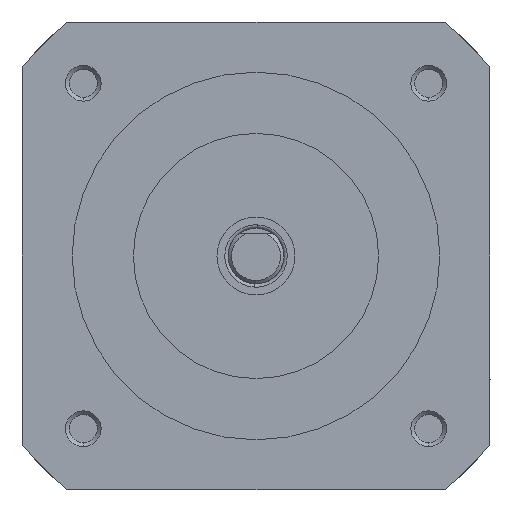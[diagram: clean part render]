
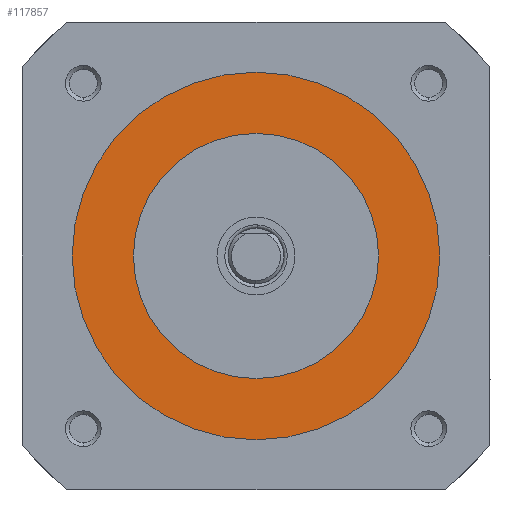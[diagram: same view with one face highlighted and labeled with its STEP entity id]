
A CAD part, left-side view. The second image highlights one B-rep face of the part: STEP entity #117857.
In plain terms, the highlighted planar face has unit normal (-1, 0, 0).
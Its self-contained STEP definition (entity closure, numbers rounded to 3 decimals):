
#2544 = ORIENTED_EDGE ( 'NONE', *, *, #118529, .F. ) ;
#20765 = VERTEX_POINT ( 'NONE', #42712 ) ;
#22672 = EDGE_CURVE ( 'NONE', #160364, #20765, #188858, .T. ) ;
#24115 = PLANE ( 'NONE',  #160696 ) ;
#37977 = CIRCLE ( 'NONE', #86567, 11. ) ;
#38978 = CARTESIAN_POINT ( 'NONE',  ( -25.026, 10.32, 63.49 ) ) ;
#42712 = CARTESIAN_POINT ( 'NONE',  ( -25.026, 10.32, 52.49 ) ) ;
#48685 = CARTESIAN_POINT ( 'NONE',  ( -25.026, 10.32, 74.49 ) ) ;
#69312 = CIRCLE ( 'NONE', #199635, 16.5 ) ;
#71970 = DIRECTION ( 'NONE',  ( -1., 0., 0. ) ) ;
#73094 = DIRECTION ( 'NONE',  ( 0., 0., 1. ) ) ;
#74353 = CARTESIAN_POINT ( 'NONE',  ( -25.026, 10.32, 63.49 ) ) ;
#79808 = AXIS2_PLACEMENT_3D ( 'NONE', #154753, #167211, #88570 ) ;
#81460 = CARTESIAN_POINT ( 'NONE',  ( -25.026, 10.32, 79.99 ) ) ;
#86567 = AXIS2_PLACEMENT_3D ( 'NONE', #38978, #170059, #171144 ) ;
#88570 = DIRECTION ( 'NONE',  ( 0., 0., 1. ) ) ;
#96466 = CARTESIAN_POINT ( 'NONE',  ( -25.026, 10.32, 63.49 ) ) ;
#103740 = ORIENTED_EDGE ( 'NONE', *, *, #139632, .T. ) ;
#117857 = ADVANCED_FACE ( 'NONE', ( #124121, #188179 ), #24115, .T. ) ;
#118529 = EDGE_CURVE ( 'NONE', #20765, #160364, #37977, .T. ) ;
#119134 = AXIS2_PLACEMENT_3D ( 'NONE', #74353, #141553, #192287 ) ;
#120380 = EDGE_LOOP ( 'NONE', ( #103740, #196861 ) ) ;
#122129 = CARTESIAN_POINT ( 'NONE',  ( -25.026, 10.32, 46.99 ) ) ;
#123361 = EDGE_CURVE ( 'NONE', #162911, #142027, #161551, .T. ) ;
#124121 = FACE_OUTER_BOUND ( 'NONE', #120380, .T. ) ;
#139632 = EDGE_CURVE ( 'NONE', #142027, #162911, #69312, .T. ) ;
#141553 = DIRECTION ( 'NONE',  ( -1., 0., 0. ) ) ;
#142027 = VERTEX_POINT ( 'NONE', #81460 ) ;
#145861 = ORIENTED_EDGE ( 'NONE', *, *, #22672, .F. ) ;
#154753 = CARTESIAN_POINT ( 'NONE',  ( -25.026, 10.32, 63.49 ) ) ;
#160364 = VERTEX_POINT ( 'NONE', #48685 ) ;
#160696 = AXIS2_PLACEMENT_3D ( 'NONE', #96466, #194693, #178161 ) ;
#161551 = CIRCLE ( 'NONE', #119134, 16.5 ) ;
#162911 = VERTEX_POINT ( 'NONE', #122129 ) ;
#167211 = DIRECTION ( 'NONE',  ( -1., 0., 0. ) ) ;
#170059 = DIRECTION ( 'NONE',  ( -1., 0., 0. ) ) ;
#171144 = DIRECTION ( 'NONE',  ( 0., 0., 1. ) ) ;
#173375 = CARTESIAN_POINT ( 'NONE',  ( -25.026, 10.32, 63.49 ) ) ;
#178161 = DIRECTION ( 'NONE',  ( 0., 0., 1. ) ) ;
#188179 = FACE_BOUND ( 'NONE', #196271, .T. ) ;
#188858 = CIRCLE ( 'NONE', #79808, 11. ) ;
#192287 = DIRECTION ( 'NONE',  ( 0., 0., 1. ) ) ;
#194693 = DIRECTION ( 'NONE',  ( -1., 0., 0. ) ) ;
#196271 = EDGE_LOOP ( 'NONE', ( #2544, #145861 ) ) ;
#196861 = ORIENTED_EDGE ( 'NONE', *, *, #123361, .T. ) ;
#199635 = AXIS2_PLACEMENT_3D ( 'NONE', #173375, #71970, #73094 ) ;
